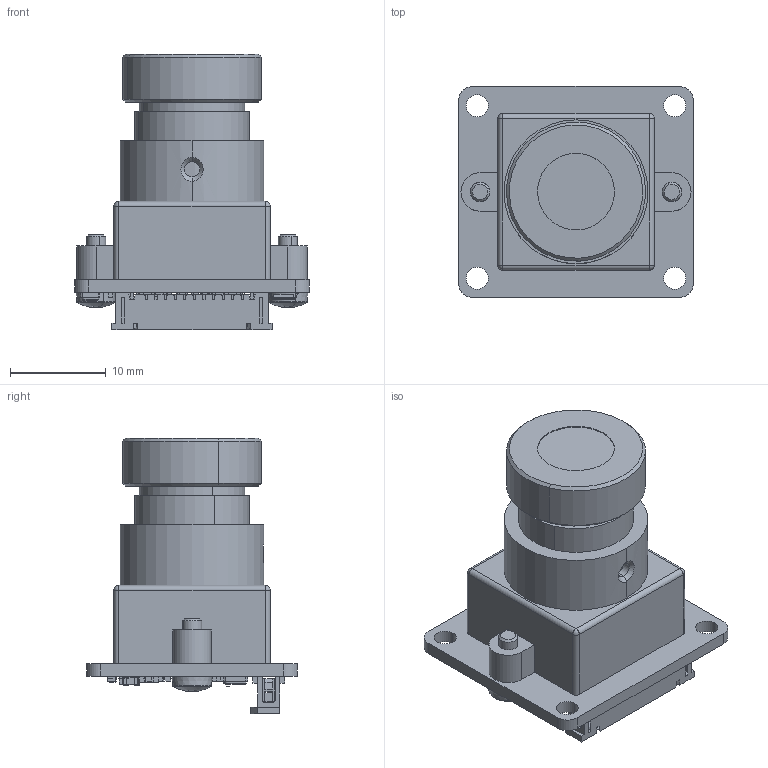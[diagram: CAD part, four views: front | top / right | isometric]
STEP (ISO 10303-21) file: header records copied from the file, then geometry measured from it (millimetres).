
FILE_DESCRIPTION((''),'2;1');
FILE_NAME('DS-CIMX335-22-80_LIGHT','2025-03-13T',('admin'),(''),'CREO PARAMETRIC BY PTC INC, 2017300','CREO PARAMETRIC BY PTC INC, 2017300','');
FILE_SCHEMA(('AUTOMOTIVE_DESIGN { 1 0 10303 214 1 1 1 1 }'));
Length unit declared in the file: millimetre
Products named in the file (1): DS-CIMX335-22-80_LIGHT
Bounding box: 24.5 x 22 x 28.74 mm (x, y, z)
Surface area: 3492.1 mm2 (no closed solid volume)
Topology: 0 solids, 246 shells, 569 faces, 2202 edges, 1870 vertices
Faces by surface type: plane 414, cylinder 91, bspline 32, cone 16, torus 12, sphere 4
Entity records: 28082 total; most frequent: CARTESIAN_POINT 6497, DIRECTION 3500, ORIENTED_EDGE 2737, EDGE_CURVE 2198, VERTEX_POINT 1870, VECTOR 1774, LINE 1774, AXIS2_PLACEMENT_3D 863
